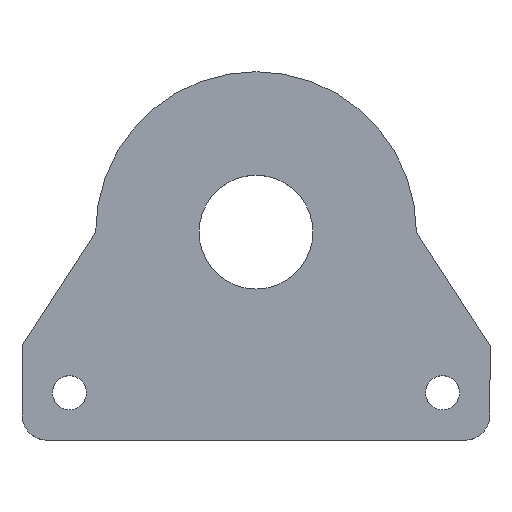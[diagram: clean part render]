
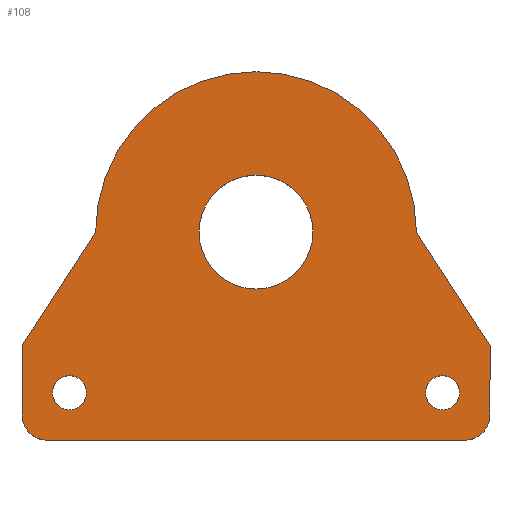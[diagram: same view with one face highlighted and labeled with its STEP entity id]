
A CAD part, top view. The second image highlights one B-rep face of the part: STEP entity #108.
In plain terms, the highlighted planar face has unit normal (0, 0, 1).
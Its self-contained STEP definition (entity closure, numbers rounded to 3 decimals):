
#6 = AXIS2_PLACEMENT_3D ( 'NONE', #347, #260, #496 ) ;
#11 = LINE ( 'NONE', #341, #38 ) ;
#12 = CARTESIAN_POINT ( 'NONE',  ( -21.449, 14.852, 2.5 ) ) ;
#13 = CIRCLE ( 'NONE', #460, 4.5 ) ;
#16 = CARTESIAN_POINT ( 'NONE',  ( -50.949, 14.852, 2.5 ) ) ;
#17 = VERTEX_POINT ( 'NONE', #336 ) ;
#24 = DIRECTION ( 'NONE',  ( 1., 0., 0. ) ) ;
#25 = DIRECTION ( 'NONE',  ( 0., 0., -1. ) ) ;
#34 = VERTEX_POINT ( 'NONE', #425 ) ;
#38 = VECTOR ( 'NONE', #101, 1000. ) ;
#39 = CARTESIAN_POINT ( 'NONE',  ( -20.099, 14.852, 2.5 ) ) ;
#42 = CARTESIAN_POINT ( 'NONE',  ( -18.349, 11.102, 2.5 ) ) ;
#43 = VERTEX_POINT ( 'NONE', #172 ) ;
#54 = DIRECTION ( 'NONE',  ( 0., 0., 1. ) ) ;
#56 = CARTESIAN_POINT ( 'NONE',  ( -49.599, 14.852, 2.5 ) ) ;
#62 = CARTESIAN_POINT ( 'NONE',  ( -16.349, 0., 2.5 ) ) ;
#68 = EDGE_CURVE ( 'NONE', #221, #146, #148, .T. ) ;
#69 = EDGE_CURVE ( 'NONE', #361, #344, #498, .T. ) ;
#77 = FACE_OUTER_BOUND ( 'NONE', #362, .T. ) ;
#78 = FACE_BOUND ( 'NONE', #306, .T. ) ;
#83 = ORIENTED_EDGE ( 'NONE', *, *, #529, .F. ) ;
#85 = AXIS2_PLACEMENT_3D ( 'NONE', #39, #87, #385 ) ;
#87 = DIRECTION ( 'NONE',  ( 0., 0., 1. ) ) ;
#94 = VECTOR ( 'NONE', #389, 1000. ) ;
#101 = DIRECTION ( 'NONE',  ( 0., -1., 0. ) ) ;
#106 = ORIENTED_EDGE ( 'NONE', *, *, #532, .F. ) ;
#108 = ADVANCED_FACE ( 'NONE', ( #77, #353, #78, #280 ), #492, .T. ) ;
#112 = EDGE_CURVE ( 'NONE', #412, #527, #290, .T. ) ;
#114 = DIRECTION ( 'NONE',  ( 1., 0., 0. ) ) ;
#118 = CIRCLE ( 'NONE', #270, 2. ) ;
#122 = DIRECTION ( 'NONE',  ( -0.545, 0.839, 0. ) ) ;
#125 = DIRECTION ( 'NONE',  ( 1., 0., 0. ) ) ;
#135 = CARTESIAN_POINT ( 'NONE',  ( -39.349, 27.554, 2.5 ) ) ;
#140 = CARTESIAN_POINT ( 'NONE',  ( -20.099, 14.852, 2.5 ) ) ;
#143 = DIRECTION ( 'NONE',  ( 0., 0., 1. ) ) ;
#146 = VERTEX_POINT ( 'NONE', #135 ) ;
#148 = CIRCLE ( 'NONE', #6, 4.5 ) ;
#149 = VECTOR ( 'NONE', #122, 1000. ) ;
#152 = ORIENTED_EDGE ( 'NONE', *, *, #506, .F. ) ;
#162 = ORIENTED_EDGE ( 'NONE', *, *, #585, .F. ) ;
#172 = CARTESIAN_POINT ( 'NONE',  ( -22.167, 27.558, 2.5 ) ) ;
#182 = ORIENTED_EDGE ( 'NONE', *, *, #586, .F. ) ;
#185 = LINE ( 'NONE', #497, #449 ) ;
#189 = CARTESIAN_POINT ( 'NONE',  ( -18.749, 14.852, 2.5 ) ) ;
#195 = EDGE_CURVE ( 'NONE', #303, #229, #584, .T. ) ;
#200 = EDGE_CURVE ( 'NONE', #146, #221, #13, .T. ) ;
#204 = CARTESIAN_POINT ( 'NONE',  ( -48.249, 14.852, 2.5 ) ) ;
#216 = CIRCLE ( 'NONE', #85, 1.35 ) ;
#221 = VERTEX_POINT ( 'NONE', #537 ) ;
#223 = ORIENTED_EDGE ( 'NONE', *, *, #68, .F. ) ;
#224 = ORIENTED_EDGE ( 'NONE', *, *, #461, .F. ) ;
#227 = LINE ( 'NONE', #374, #149 ) ;
#229 = VERTEX_POINT ( 'NONE', #204 ) ;
#237 = DIRECTION ( 'NONE',  ( 1., 0., 0. ) ) ;
#240 = DIRECTION ( 'NONE',  ( 1., 0., 0. ) ) ;
#248 = CIRCLE ( 'NONE', #423, 2. ) ;
#259 = VERTEX_POINT ( 'NONE', #409 ) ;
#260 = DIRECTION ( 'NONE',  ( 0., 0., 1. ) ) ;
#262 = AXIS2_PLACEMENT_3D ( 'NONE', #140, #326, #444 ) ;
#266 = CARTESIAN_POINT ( 'NONE',  ( 0., 11.102, 2.5 ) ) ;
#270 = AXIS2_PLACEMENT_3D ( 'NONE', #340, #587, #24 ) ;
#273 = AXIS2_PLACEMENT_3D ( 'NONE', #481, #54, #365 ) ;
#280 = FACE_BOUND ( 'NONE', #501, .T. ) ;
#290 = LINE ( 'NONE', #266, #94 ) ;
#303 = VERTEX_POINT ( 'NONE', #16 ) ;
#306 = EDGE_LOOP ( 'NONE', ( #393, #83 ) ) ;
#322 = VERTEX_POINT ( 'NONE', #552 ) ;
#326 = DIRECTION ( 'NONE',  ( 0., 0., 1. ) ) ;
#336 = CARTESIAN_POINT ( 'NONE',  ( -53.349, 13.102, 2.5 ) ) ;
#340 = CARTESIAN_POINT ( 'NONE',  ( -18.349, 13.102, 2.5 ) ) ;
#341 = CARTESIAN_POINT ( 'NONE',  ( -53.349, 0., 2.5 ) ) ;
#344 = VERTEX_POINT ( 'NONE', #189 ) ;
#347 = CARTESIAN_POINT ( 'NONE',  ( -34.849, 27.554, 2.5 ) ) ;
#353 = FACE_BOUND ( 'NONE', #514, .T. ) ;
#355 = DIRECTION ( 'NONE',  ( 0., -1., 0. ) ) ;
#358 = AXIS2_PLACEMENT_3D ( 'NONE', #408, #445, #416 ) ;
#360 = AXIS2_PLACEMENT_3D ( 'NONE', #56, #378, #125 ) ;
#361 = VERTEX_POINT ( 'NONE', #12 ) ;
#362 = EDGE_LOOP ( 'NONE', ( #224, #583, #541, #106, #554, #182, #162, #595 ) ) ;
#363 = CIRCLE ( 'NONE', #273, 1.35 ) ;
#365 = DIRECTION ( 'NONE',  ( 1., 0., 0. ) ) ;
#366 = CARTESIAN_POINT ( 'NONE',  ( -34.849, 27.554, 2.5 ) ) ;
#370 = CARTESIAN_POINT ( 'NONE',  ( -51.349, 11.102, 2.5 ) ) ;
#374 = CARTESIAN_POINT ( 'NONE',  ( -2.998, -1.948, 2.5 ) ) ;
#378 = DIRECTION ( 'NONE',  ( 0., 0., 1. ) ) ;
#385 = DIRECTION ( 'NONE',  ( 1., 0., 0. ) ) ;
#389 = DIRECTION ( 'NONE',  ( 1., 0., 0. ) ) ;
#393 = ORIENTED_EDGE ( 'NONE', *, *, #69, .F. ) ;
#408 = CARTESIAN_POINT ( 'NONE',  ( -34.849, 27.554, 2.5 ) ) ;
#409 = CARTESIAN_POINT ( 'NONE',  ( -16.349, 13.095, 2.5 ) ) ;
#412 = VERTEX_POINT ( 'NONE', #370 ) ;
#416 = DIRECTION ( 'NONE',  ( 1., 0., 0. ) ) ;
#418 = EDGE_CURVE ( 'NONE', #322, #34, #185, .T. ) ;
#422 = ORIENTED_EDGE ( 'NONE', *, *, #200, .F. ) ;
#423 = AXIS2_PLACEMENT_3D ( 'NONE', #499, #25, #237 ) ;
#425 = CARTESIAN_POINT ( 'NONE',  ( -47.531, 27.554, 2.5 ) ) ;
#438 = DIRECTION ( 'NONE',  ( 0., 0., 1. ) ) ;
#444 = DIRECTION ( 'NONE',  ( 1., 0., 0. ) ) ;
#445 = DIRECTION ( 'NONE',  ( 0., 0., -1. ) ) ;
#449 = VECTOR ( 'NONE', #467, 1000. ) ;
#460 = AXIS2_PLACEMENT_3D ( 'NONE', #366, #143, #114 ) ;
#461 = EDGE_CURVE ( 'NONE', #34, #43, #482, .T. ) ;
#467 = DIRECTION ( 'NONE',  ( 0.545, 0.838, 0. ) ) ;
#481 = CARTESIAN_POINT ( 'NONE',  ( -49.599, 14.852, 2.5 ) ) ;
#482 = CIRCLE ( 'NONE', #358, 12.682 ) ;
#484 = CARTESIAN_POINT ( 'NONE',  ( 0., 0., 2.5 ) ) ;
#487 = ORIENTED_EDGE ( 'NONE', *, *, #195, .F. ) ;
#490 = LINE ( 'NONE', #62, #597 ) ;
#492 = PLANE ( 'NONE',  #590 ) ;
#496 = DIRECTION ( 'NONE',  ( 1., 0., 0. ) ) ;
#497 = CARTESIAN_POINT ( 'NONE',  ( -46.005, 29.901, 2.5 ) ) ;
#498 = CIRCLE ( 'NONE', #262, 1.35 ) ;
#499 = CARTESIAN_POINT ( 'NONE',  ( -51.349, 13.102, 2.5 ) ) ;
#501 = EDGE_LOOP ( 'NONE', ( #487, #152 ) ) ;
#506 = EDGE_CURVE ( 'NONE', #229, #303, #363, .T. ) ;
#509 = CARTESIAN_POINT ( 'NONE',  ( -16.349, 18.602, 2.5 ) ) ;
#514 = EDGE_LOOP ( 'NONE', ( #422, #223 ) ) ;
#527 = VERTEX_POINT ( 'NONE', #42 ) ;
#528 = EDGE_CURVE ( 'NONE', #322, #17, #11, .T. ) ;
#529 = EDGE_CURVE ( 'NONE', #344, #361, #216, .T. ) ;
#532 = EDGE_CURVE ( 'NONE', #412, #17, #248, .T. ) ;
#537 = CARTESIAN_POINT ( 'NONE',  ( -30.349, 27.554, 2.5 ) ) ;
#541 = ORIENTED_EDGE ( 'NONE', *, *, #528, .T. ) ;
#552 = CARTESIAN_POINT ( 'NONE',  ( -53.349, 18.602, 2.5 ) ) ;
#554 = ORIENTED_EDGE ( 'NONE', *, *, #112, .T. ) ;
#556 = VERTEX_POINT ( 'NONE', #509 ) ;
#560 = EDGE_CURVE ( 'NONE', #556, #43, #227, .T. ) ;
#583 = ORIENTED_EDGE ( 'NONE', *, *, #418, .F. ) ;
#584 = CIRCLE ( 'NONE', #360, 1.35 ) ;
#585 = EDGE_CURVE ( 'NONE', #556, #259, #490, .T. ) ;
#586 = EDGE_CURVE ( 'NONE', #259, #527, #118, .T. ) ;
#587 = DIRECTION ( 'NONE',  ( 0., 0., -1. ) ) ;
#590 = AXIS2_PLACEMENT_3D ( 'NONE', #484, #438, #240 ) ;
#595 = ORIENTED_EDGE ( 'NONE', *, *, #560, .T. ) ;
#597 = VECTOR ( 'NONE', #355, 1000. ) ;
